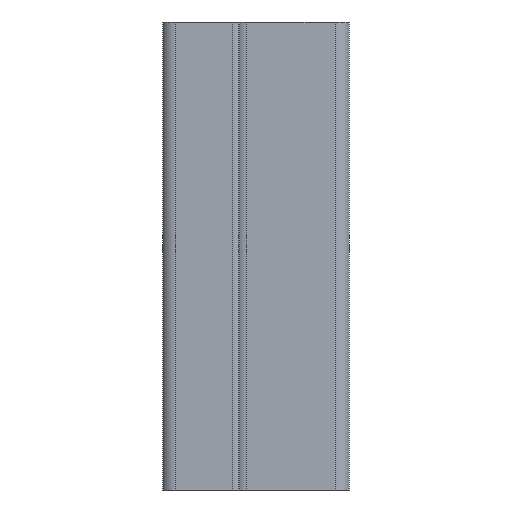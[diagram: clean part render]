
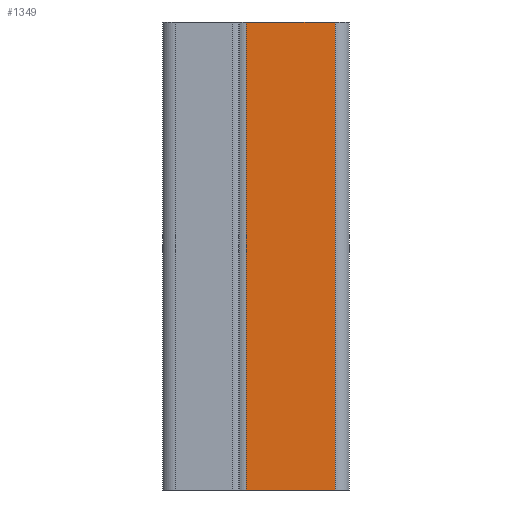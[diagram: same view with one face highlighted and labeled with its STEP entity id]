
A CAD part, left-side view. The second image highlights one B-rep face of the part: STEP entity #1349.
In plain terms, the highlighted planar face has unit normal (-1, 0, 0).
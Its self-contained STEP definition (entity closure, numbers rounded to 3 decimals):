
#115 = CARTESIAN_POINT ( 'NONE',  ( -12.5, 9.5, 100. ) ) ;
#234 = CARTESIAN_POINT ( 'NONE',  ( -12.5, -9.5, 0. ) ) ;
#276 = VECTOR ( 'NONE', #884, 1000. ) ;
#308 = DIRECTION ( 'NONE',  ( 0., -1., 0. ) ) ;
#339 = PLANE ( 'NONE',  #1404 ) ;
#362 = CARTESIAN_POINT ( 'NONE',  ( -12.5, -9.5, 100. ) ) ;
#410 = CARTESIAN_POINT ( 'NONE',  ( -12.5, -9.5, 100. ) ) ;
#494 = VECTOR ( 'NONE', #308, 1000. ) ;
#751 = VERTEX_POINT ( 'NONE', #410 ) ;
#792 = ORIENTED_EDGE ( 'NONE', *, *, #1265, .T. ) ;
#867 = DIRECTION ( 'NONE',  ( 1., 0., 0. ) ) ;
#884 = DIRECTION ( 'NONE',  ( 0., -1., 0. ) ) ;
#907 = FACE_OUTER_BOUND ( 'NONE', #1228, .T. ) ;
#950 = VECTOR ( 'NONE', #1303, 1000. ) ;
#969 = VECTOR ( 'NONE', #1615, 1000. ) ;
#979 = CARTESIAN_POINT ( 'NONE',  ( -12.5, -9.5, 100. ) ) ;
#992 = ORIENTED_EDGE ( 'NONE', *, *, #1453, .T. ) ;
#1001 = DIRECTION ( 'NONE',  ( 0., 1., 0. ) ) ;
#1043 = CARTESIAN_POINT ( 'NONE',  ( -12.5, 9.5, 0. ) ) ;
#1153 = VERTEX_POINT ( 'NONE', #234 ) ;
#1228 = EDGE_LOOP ( 'NONE', ( #992, #1286, #1240, #792 ) ) ;
#1233 = CARTESIAN_POINT ( 'NONE',  ( -12.5, 9.5, 100. ) ) ;
#1240 = ORIENTED_EDGE ( 'NONE', *, *, #1646, .F. ) ;
#1252 = LINE ( 'NONE', #979, #494 ) ;
#1265 = EDGE_CURVE ( 'NONE', #1523, #1386, #1753, .T. ) ;
#1270 = CARTESIAN_POINT ( 'NONE',  ( -12.5, -9.5, 100. ) ) ;
#1286 = ORIENTED_EDGE ( 'NONE', *, *, #1446, .F. ) ;
#1303 = DIRECTION ( 'NONE',  ( 0., 0., -1. ) ) ;
#1311 = CARTESIAN_POINT ( 'NONE',  ( -12.5, -9.5, 0. ) ) ;
#1349 = ADVANCED_FACE ( 'NONE', ( #907 ), #339, .F. ) ;
#1386 = VERTEX_POINT ( 'NONE', #1043 ) ;
#1404 = AXIS2_PLACEMENT_3D ( 'NONE', #1270, #867, #1001 ) ;
#1446 = EDGE_CURVE ( 'NONE', #751, #1153, #1618, .T. ) ;
#1453 = EDGE_CURVE ( 'NONE', #1386, #1153, #1533, .T. ) ;
#1523 = VERTEX_POINT ( 'NONE', #115 ) ;
#1533 = LINE ( 'NONE', #1311, #276 ) ;
#1615 = DIRECTION ( 'NONE',  ( 0., 0., -1. ) ) ;
#1618 = LINE ( 'NONE', #362, #950 ) ;
#1646 = EDGE_CURVE ( 'NONE', #1523, #751, #1252, .T. ) ;
#1753 = LINE ( 'NONE', #1233, #969 ) ;
